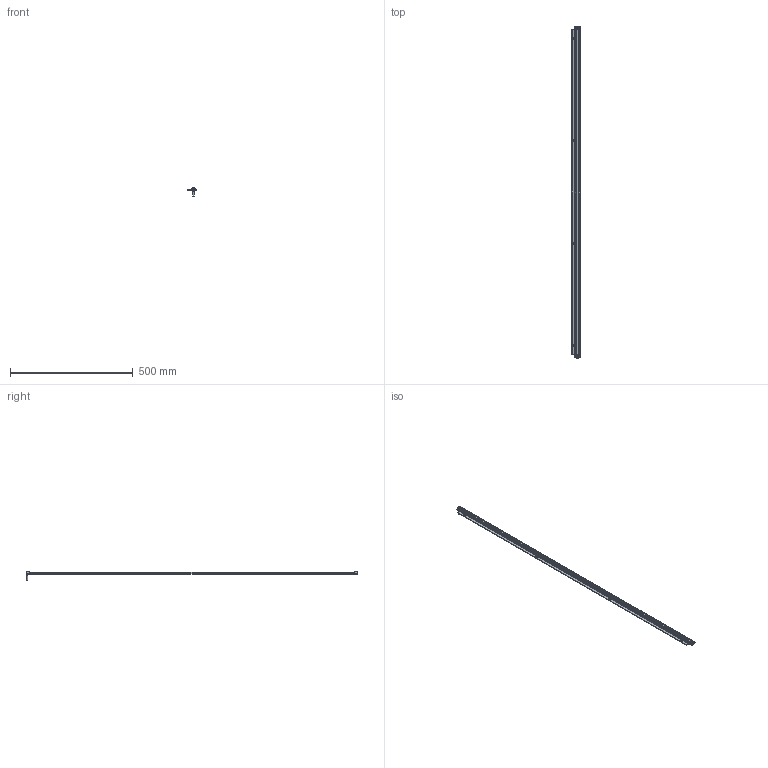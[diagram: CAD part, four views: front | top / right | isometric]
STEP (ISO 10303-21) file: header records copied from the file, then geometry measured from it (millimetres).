
FILE_DESCRIPTION (( 'STEP AP214' ), '1' );
FILE_NAME ('ILGA-L-K1a-1350mm.STEP', '2026-04-24T23:09:36', ( '' ), ( '' ), 'SwSTEP 2.0', 'SolidWorks 2025', '' );
FILE_SCHEMA (( 'AUTOMOTIVE_DESIGN' ));
Length unit declared in the file: millimetre
Products named in the file (1): ILGA-L-K1a-1350mm
Bounding box: 35 x 1350 x 34.2 mm (x, y, z)
Volume: 140684 mm3; surface area: 208240.6 mm2
Topology: 9 solids, 9 shells, 684 faces, 1778 edges, 1086 vertices
Faces by surface type: plane 293, cylinder 247, cone 60, torus 44, bspline 24, sphere 16
Entity records: 28741 total; most frequent: CARTESIAN_POINT 4449, DIRECTION 3632, ORIENTED_EDGE 3468, EDGE_CURVE 1734, AXIS2_PLACEMENT_3D 1357, VERTEX_POINT 1086, VECTOR 918, LINE 918
